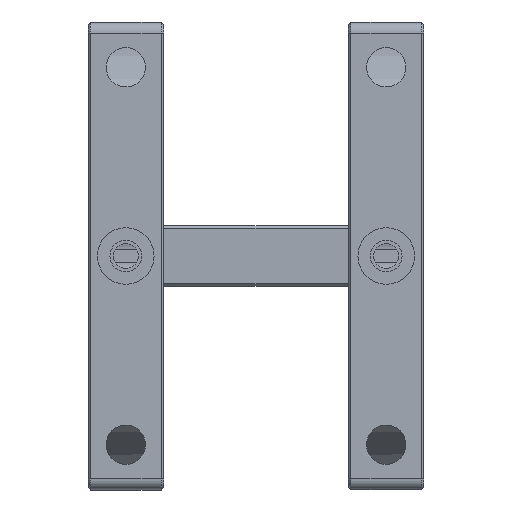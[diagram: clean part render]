
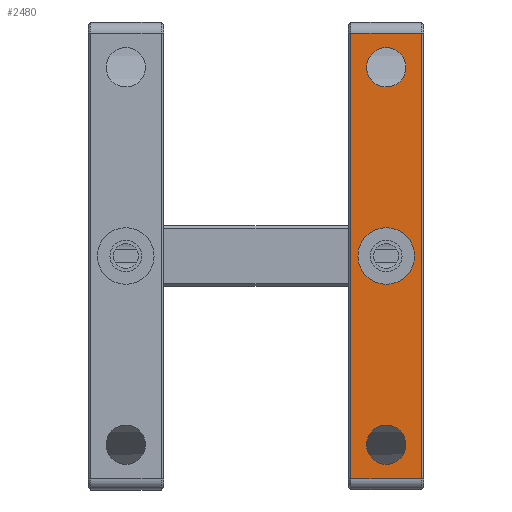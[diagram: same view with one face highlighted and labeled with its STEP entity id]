
A CAD part, front view. The second image highlights one B-rep face of the part: STEP entity #2480.
In plain terms, the highlighted planar face has unit normal (0, -1, 0).
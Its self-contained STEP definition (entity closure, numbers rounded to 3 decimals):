
#10 = EDGE_CURVE ( 'NONE', #577, #1909, #2950, .T. ) ;
#52 = DIRECTION ( 'NONE',  ( 0., -1., 0. ) ) ;
#71 = LINE ( 'NONE', #5460, #3096 ) ;
#94 = VERTEX_POINT ( 'NONE', #4153 ) ;
#172 = CARTESIAN_POINT ( 'NONE',  ( -42.7, -88., -29.5 ) ) ;
#205 = DIRECTION ( 'NONE',  ( 0., -1., 0. ) ) ;
#279 = VERTEX_POINT ( 'NONE', #3828 ) ;
#288 = EDGE_CURVE ( 'NONE', #279, #5151, #3267, .T. ) ;
#301 = ORIENTED_EDGE ( 'NONE', *, *, #10, .F. ) ;
#407 = AXIS2_PLACEMENT_3D ( 'NONE', #1742, #5625, #2673 ) ;
#577 = VERTEX_POINT ( 'NONE', #3851 ) ;
#579 = DIRECTION ( 'NONE',  ( 0., 0., -1. ) ) ;
#659 = VERTEX_POINT ( 'NONE', #3541 ) ;
#731 = DIRECTION ( 'NONE',  ( 0., -1., 0. ) ) ;
#735 = DIRECTION ( 'NONE',  ( 0., 0., -1. ) ) ;
#808 = CARTESIAN_POINT ( 'NONE',  ( -33., -88., -29.5 ) ) ;
#810 = DIRECTION ( 'NONE',  ( 0., 1., 0. ) ) ;
#974 = CARTESIAN_POINT ( 'NONE',  ( -33.3, -88., -29.5 ) ) ;
#979 = ORIENTED_EDGE ( 'NONE', *, *, #2019, .T. ) ;
#1106 = VECTOR ( 'NONE', #1582, 1000. ) ;
#1157 = EDGE_CURVE ( 'NONE', #1905, #4959, #6028, .T. ) ;
#1195 = EDGE_CURVE ( 'NONE', #1909, #577, #5371, .T. ) ;
#1214 = LINE ( 'NONE', #2142, #1106 ) ;
#1300 = CARTESIAN_POINT ( 'NONE',  ( -38., -88., 3.75 ) ) ;
#1445 = DIRECTION ( 'NONE',  ( 0., -1., 0. ) ) ;
#1488 = CARTESIAN_POINT ( 'NONE',  ( -38., -88., -3.75 ) ) ;
#1582 = DIRECTION ( 'NONE',  ( -1., 0., 0. ) ) ;
#1643 = DIRECTION ( 'NONE',  ( 0., 0., -1. ) ) ;
#1742 = CARTESIAN_POINT ( 'NONE',  ( -38., -88., -25. ) ) ;
#1775 = FACE_BOUND ( 'NONE', #1911, .T. ) ;
#1826 = ORIENTED_EDGE ( 'NONE', *, *, #5934, .F. ) ;
#1905 = VERTEX_POINT ( 'NONE', #172 ) ;
#1909 = VERTEX_POINT ( 'NONE', #5800 ) ;
#1911 = EDGE_LOOP ( 'NONE', ( #1826, #4582 ) ) ;
#2019 = EDGE_CURVE ( 'NONE', #94, #1905, #71, .T. ) ;
#2142 = CARTESIAN_POINT ( 'NONE',  ( -33., -88., 29.5 ) ) ;
#2184 = ORIENTED_EDGE ( 'NONE', *, *, #1195, .F. ) ;
#2379 = CARTESIAN_POINT ( 'NONE',  ( -33.3, -88., 29.5 ) ) ;
#2440 = DIRECTION ( 'NONE',  ( 0., 0., 1. ) ) ;
#2468 = LINE ( 'NONE', #2379, #3482 ) ;
#2480 = ADVANCED_FACE ( 'NONE', ( #1775, #3722, #3695, #5136 ), #4135, .F. ) ;
#2673 = DIRECTION ( 'NONE',  ( 0., 0., 1. ) ) ;
#2828 = CARTESIAN_POINT ( 'NONE',  ( -38., -88., 0. ) ) ;
#2844 = AXIS2_PLACEMENT_3D ( 'NONE', #5837, #5414, #1643 ) ;
#2881 = CARTESIAN_POINT ( 'NONE',  ( -38., -88., 25. ) ) ;
#2910 = CARTESIAN_POINT ( 'NONE',  ( -38., -88., 25. ) ) ;
#2950 = CIRCLE ( 'NONE', #5822, 2.6 ) ;
#2975 = ORIENTED_EDGE ( 'NONE', *, *, #3140, .T. ) ;
#3096 = VECTOR ( 'NONE', #735, 1000. ) ;
#3140 = EDGE_CURVE ( 'NONE', #659, #94, #1214, .T. ) ;
#3186 = ORIENTED_EDGE ( 'NONE', *, *, #1157, .T. ) ;
#3267 = CIRCLE ( 'NONE', #4255, 2.6 ) ;
#3482 = VECTOR ( 'NONE', #2440, 1000. ) ;
#3536 = EDGE_CURVE ( 'NONE', #4959, #659, #2468, .T. ) ;
#3541 = CARTESIAN_POINT ( 'NONE',  ( -33.3, -88., 29.5 ) ) ;
#3542 = EDGE_CURVE ( 'NONE', #5151, #279, #6079, .T. ) ;
#3695 = FACE_BOUND ( 'NONE', #6132, .T. ) ;
#3722 = FACE_BOUND ( 'NONE', #4801, .T. ) ;
#3727 = CIRCLE ( 'NONE', #5333, 3.75 ) ;
#3807 = DIRECTION ( 'NONE',  ( 0., 0., -1. ) ) ;
#3828 = CARTESIAN_POINT ( 'NONE',  ( -38., -88., 22.4 ) ) ;
#3851 = CARTESIAN_POINT ( 'NONE',  ( -38., -88., -27.6 ) ) ;
#4079 = ORIENTED_EDGE ( 'NONE', *, *, #3542, .F. ) ;
#4135 = PLANE ( 'NONE',  #4592 ) ;
#4153 = CARTESIAN_POINT ( 'NONE',  ( -42.7, -88., 29.5 ) ) ;
#4255 = AXIS2_PLACEMENT_3D ( 'NONE', #2910, #731, #4951 ) ;
#4431 = EDGE_LOOP ( 'NONE', ( #2975, #979, #3186, #5331 ) ) ;
#4582 = ORIENTED_EDGE ( 'NONE', *, *, #5652, .F. ) ;
#4592 = AXIS2_PLACEMENT_3D ( 'NONE', #5627, #810, #6030 ) ;
#4674 = VERTEX_POINT ( 'NONE', #1488 ) ;
#4801 = EDGE_LOOP ( 'NONE', ( #301, #2184 ) ) ;
#4951 = DIRECTION ( 'NONE',  ( 0., 0., -1. ) ) ;
#4959 = VERTEX_POINT ( 'NONE', #974 ) ;
#4996 = CARTESIAN_POINT ( 'NONE',  ( -38., -88., -25. ) ) ;
#5132 = CIRCLE ( 'NONE', #2844, 3.75 ) ;
#5136 = FACE_OUTER_BOUND ( 'NONE', #4431, .T. ) ;
#5151 = VERTEX_POINT ( 'NONE', #5391 ) ;
#5331 = ORIENTED_EDGE ( 'NONE', *, *, #3536, .T. ) ;
#5333 = AXIS2_PLACEMENT_3D ( 'NONE', #2828, #52, #579 ) ;
#5371 = CIRCLE ( 'NONE', #407, 2.6 ) ;
#5391 = CARTESIAN_POINT ( 'NONE',  ( -38., -88., 27.6 ) ) ;
#5414 = DIRECTION ( 'NONE',  ( 0., -1., 0. ) ) ;
#5460 = CARTESIAN_POINT ( 'NONE',  ( -42.7, -88., -31. ) ) ;
#5483 = AXIS2_PLACEMENT_3D ( 'NONE', #2881, #1445, #3807 ) ;
#5565 = DIRECTION ( 'NONE',  ( 1., 0., 0. ) ) ;
#5625 = DIRECTION ( 'NONE',  ( 0., -1., 0. ) ) ;
#5627 = CARTESIAN_POINT ( 'NONE',  ( -33., -88., -31. ) ) ;
#5652 = EDGE_CURVE ( 'NONE', #5795, #4674, #5132, .T. ) ;
#5795 = VERTEX_POINT ( 'NONE', #1300 ) ;
#5800 = CARTESIAN_POINT ( 'NONE',  ( -38., -88., -22.4 ) ) ;
#5822 = AXIS2_PLACEMENT_3D ( 'NONE', #4996, #205, #5894 ) ;
#5827 = ORIENTED_EDGE ( 'NONE', *, *, #288, .F. ) ;
#5837 = CARTESIAN_POINT ( 'NONE',  ( -38., -88., 0. ) ) ;
#5894 = DIRECTION ( 'NONE',  ( 0., 0., 1. ) ) ;
#5934 = EDGE_CURVE ( 'NONE', #4674, #5795, #3727, .T. ) ;
#5957 = VECTOR ( 'NONE', #5565, 1000. ) ;
#6028 = LINE ( 'NONE', #808, #5957 ) ;
#6030 = DIRECTION ( 'NONE',  ( 0., 0., -1. ) ) ;
#6079 = CIRCLE ( 'NONE', #5483, 2.6 ) ;
#6132 = EDGE_LOOP ( 'NONE', ( #5827, #4079 ) ) ;
